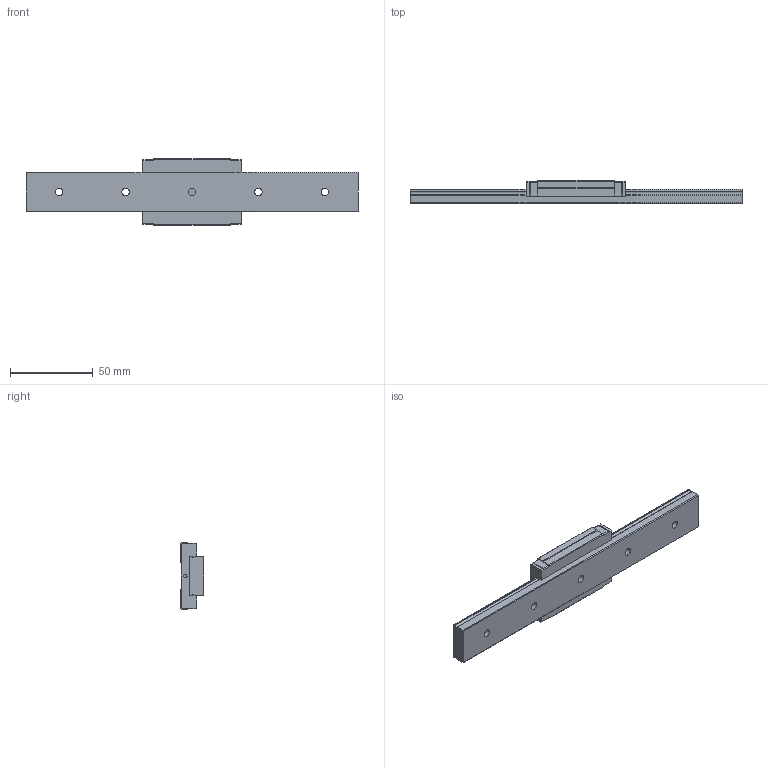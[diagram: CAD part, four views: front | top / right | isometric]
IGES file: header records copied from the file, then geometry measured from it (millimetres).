
Start section: Data from Parasolid IGES Translator 26.0.171, Copyright(c) 2006 Siemens PLM Software. All Rights Reserved.
Global section: file name: RSX12M1WNUUE-200LM_G20_0_Without grease nipple_70-25_0_0_0_1.igs; native system: By Siemens PLM Incorporated; preprocessor: XPlus GENERIC/IGES 26.0.171; author: Noname; organization: Noname; date: 20240523.083704; units: millimetre
Bounding box: 200 x 14 x 40 mm (x, y, z)
Surface area: 21323.9 mm2 (no closed solid volume)
Topology: 0 solids, 0 shells, 121 faces, 648 edges, 620 vertices
Faces by surface type: extrusion 83, revolution 38
